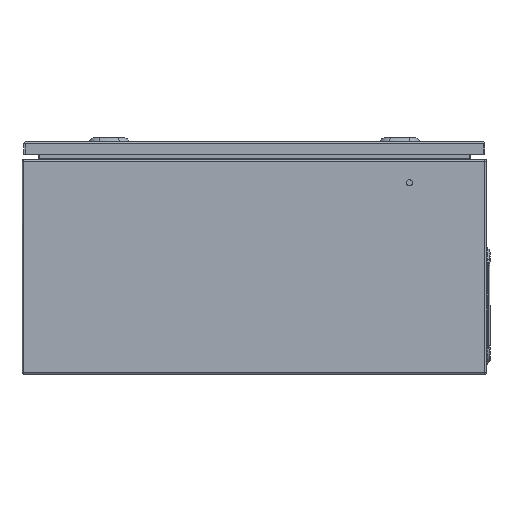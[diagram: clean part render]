
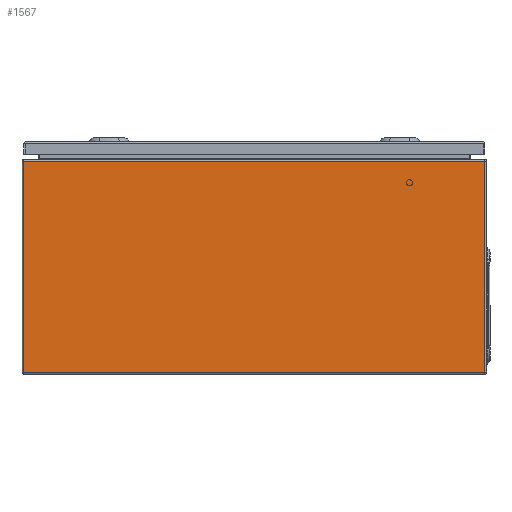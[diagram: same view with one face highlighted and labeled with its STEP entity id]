
A CAD part, left-side view. The second image highlights one B-rep face of the part: STEP entity #1567.
In plain terms, the highlighted planar face has unit normal (-1, 0, 0).
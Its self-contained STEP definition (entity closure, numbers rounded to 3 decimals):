
#693 = DIRECTION ( 'NONE',  ( 0., 0., 1. ) ) ;
#750 = CARTESIAN_POINT ( 'NONE',  ( -200., 297.5, 1.5 ) ) ;
#1057 = CARTESIAN_POINT ( 'NONE',  ( -200., -297.5, 1.5 ) ) ;
#1567 = ADVANCED_FACE ( 'NONE', ( #22173 ), #9096, .F. ) ;
#2112 = ORIENTED_EDGE ( 'NONE', *, *, #13904, .T. ) ;
#4333 = CARTESIAN_POINT ( 'NONE',  ( -200., -300., 2.35 ) ) ;
#4603 = DIRECTION ( 'NONE',  ( 0., -1., 0. ) ) ;
#5377 = VECTOR ( 'NONE', #19247, 1000. ) ;
#5932 = EDGE_CURVE ( 'NONE', #15152, #21235, #11489, .T. ) ;
#6490 = VECTOR ( 'NONE', #10571, 1000. ) ;
#6726 = LINE ( 'NONE', #750, #6490 ) ;
#6770 = VECTOR ( 'NONE', #693, 1000. ) ;
#7511 = VERTEX_POINT ( 'NONE', #16165 ) ;
#8303 = ORIENTED_EDGE ( 'NONE', *, *, #8957, .T. ) ;
#8876 = DIRECTION ( 'NONE',  ( 0., 0., -1. ) ) ;
#8957 = EDGE_CURVE ( 'NONE', #19906, #15152, #6726, .T. ) ;
#9096 = PLANE ( 'NONE',  #19406 ) ;
#10571 = DIRECTION ( 'NONE',  ( 0., 0., -1. ) ) ;
#10722 = CARTESIAN_POINT ( 'NONE',  ( -200., -300., 1.5 ) ) ;
#10970 = DIRECTION ( 'NONE',  ( 1., 0., 0. ) ) ;
#11489 = LINE ( 'NONE', #4333, #5377 ) ;
#13904 = EDGE_CURVE ( 'NONE', #21235, #7511, #17895, .T. ) ;
#14133 = CARTESIAN_POINT ( 'NONE',  ( -200., 297.5, 2.35 ) ) ;
#14610 = ORIENTED_EDGE ( 'NONE', *, *, #5932, .T. ) ;
#15152 = VERTEX_POINT ( 'NONE', #14133 ) ;
#16024 = EDGE_CURVE ( 'NONE', #19906, #7511, #21470, .T. ) ;
#16165 = CARTESIAN_POINT ( 'NONE',  ( -200., -297.5, 274.5 ) ) ;
#16631 = CARTESIAN_POINT ( 'NONE',  ( -200., 297.5, 274.5 ) ) ;
#17647 = CARTESIAN_POINT ( 'NONE',  ( -200., 300., 274.5 ) ) ;
#17895 = LINE ( 'NONE', #1057, #6770 ) ;
#19247 = DIRECTION ( 'NONE',  ( 0., -1., 0. ) ) ;
#19406 = AXIS2_PLACEMENT_3D ( 'NONE', #10722, #10970, #8876 ) ;
#19819 = VECTOR ( 'NONE', #4603, 1000. ) ;
#19906 = VERTEX_POINT ( 'NONE', #16631 ) ;
#21167 = ORIENTED_EDGE ( 'NONE', *, *, #16024, .F. ) ;
#21235 = VERTEX_POINT ( 'NONE', #24280 ) ;
#21470 = LINE ( 'NONE', #17647, #19819 ) ;
#22173 = FACE_OUTER_BOUND ( 'NONE', #23223, .T. ) ;
#23223 = EDGE_LOOP ( 'NONE', ( #8303, #14610, #2112, #21167 ) ) ;
#24280 = CARTESIAN_POINT ( 'NONE',  ( -200., -297.5, 2.35 ) ) ;
